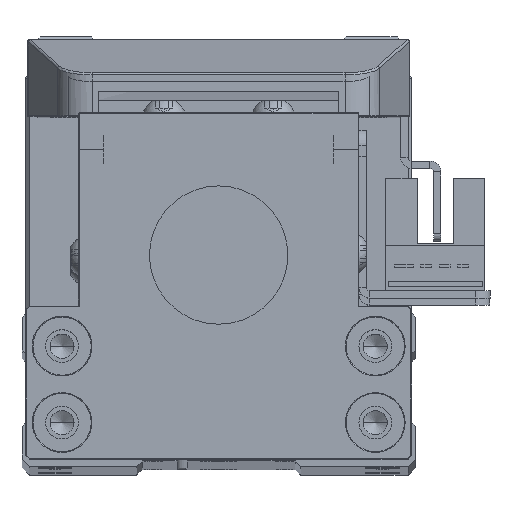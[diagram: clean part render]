
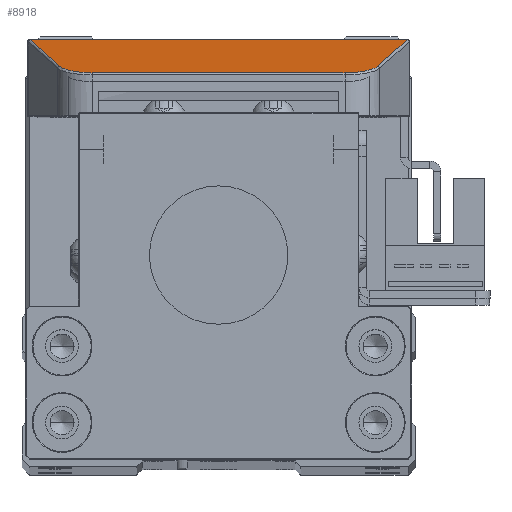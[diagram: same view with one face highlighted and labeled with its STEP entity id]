
A CAD part, top view. The second image highlights one B-rep face of the part: STEP entity #8918.
In plain terms, the highlighted planar face has unit normal (0, 0.962, 0.274) as drawn and (0, 0.274, 0.962) by its records, which use the part's own axes.
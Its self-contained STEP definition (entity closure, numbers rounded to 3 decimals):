
#27 = PLANE ( 'NONE',  #5730 ) ;
#504 = VECTOR ( 'NONE', #12778, 1000. ) ;
#949 = CARTESIAN_POINT ( 'NONE',  ( 25.876, 9.269, -0.077 ) ) ;
#1680 = CARTESIAN_POINT ( 'NONE',  ( 21.823, 22.007, -3.705 ) ) ;
#1836 = EDGE_CURVE ( 'NONE', #4837, #5199, #20678, .T. ) ;
#2120 = CARTESIAN_POINT ( 'NONE',  ( -25.876, 9.269, -0.077 ) ) ;
#2599 = VECTOR ( 'NONE', #31512, 1000. ) ;
#4036 = VERTEX_POINT ( 'NONE', #6713 ) ;
#4242 = CARTESIAN_POINT ( 'NONE',  ( -19.466, 25.282, -4.638 ) ) ;
#4585 = LINE ( 'NONE', #9087, #10500 ) ;
#4837 = VERTEX_POINT ( 'NONE', #8606 ) ;
#5199 = VERTEX_POINT ( 'NONE', #27852 ) ;
#5304 = VERTEX_POINT ( 'NONE', #5607 ) ;
#5536 = ORIENTED_EDGE ( 'NONE', *, *, #12785, .T. ) ;
#5607 = CARTESIAN_POINT ( 'NONE',  ( -17.344, 25.282, -4.638 ) ) ;
#5730 = AXIS2_PLACEMENT_3D ( 'NONE', #25357, #10179, #27924 ) ;
#6713 = CARTESIAN_POINT ( 'NONE',  ( 25.87, 9.287, -0.082 ) ) ;
#6797 = CARTESIAN_POINT ( 'NONE',  ( -21.179, 24.03, -4.281 ) ) ;
#6847 = ORIENTED_EDGE ( 'NONE', *, *, #1836, .T. ) ;
#7509 = ORIENTED_EDGE ( 'NONE', *, *, #27108, .T. ) ;
#7968 = EDGE_CURVE ( 'NONE', #5304, #4837, #24392, .T. ) ;
#7997 = CARTESIAN_POINT ( 'NONE',  ( 25.876, 9.269, -0.077 ) ) ;
#8198 = ORIENTED_EDGE ( 'NONE', *, *, #13929, .T. ) ;
#8563 = CARTESIAN_POINT ( 'NONE',  ( 25.872, 9.281, -0.08 ) ) ;
#8606 = CARTESIAN_POINT ( 'NONE',  ( -21.823, 22.007, -3.705 ) ) ;
#8767 = FACE_OUTER_BOUND ( 'NONE', #25503, .T. ) ;
#8918 = ADVANCED_FACE ( 'NONE', ( #8767 ), #27, .F. ) ;
#9087 = CARTESIAN_POINT ( 'NONE',  ( -17.344, 25.282, -4.638 ) ) ;
#9240 = CARTESIAN_POINT ( 'NONE',  ( -17.344, 25.282, -4.638 ) ) ;
#9296 = CARTESIAN_POINT ( 'NONE',  ( 19.466, 25.282, -4.638 ) ) ;
#9623 = CARTESIAN_POINT ( 'NONE',  ( -25.87, 9.287, -0.082 ) ) ;
#10179 = DIRECTION ( 'NONE',  ( 0., -0.274, -0.962 ) ) ;
#10500 = VECTOR ( 'NONE', #26781, 1000. ) ;
#11816 = VERTEX_POINT ( 'NONE', #27951 ) ;
#12778 = DIRECTION ( 'NONE',  ( -0.293, -0.92, 0.262 ) ) ;
#12785 = EDGE_CURVE ( 'NONE', #11816, #24530, #22783, .T. ) ;
#13813 = CARTESIAN_POINT ( 'NONE',  ( 26.25, 9.269, -0.077 ) ) ;
#13929 = EDGE_CURVE ( 'NONE', #24530, #4036, #28273, .T. ) ;
#15982 = CARTESIAN_POINT ( 'NONE',  ( 15.221, 42.754, -9.615 ) ) ;
#16263 = ORIENTED_EDGE ( 'NONE', *, *, #29335, .T. ) ;
#16705 = EDGE_CURVE ( 'NONE', #5199, #11816, #18764, .T. ) ;
#16801 = CARTESIAN_POINT ( 'NONE',  ( 21.179, 24.03, -4.281 ) ) ;
#17112 = VECTOR ( 'NONE', #31128, 1000. ) ;
#17206 = ORIENTED_EDGE ( 'NONE', *, *, #16705, .T. ) ;
#17236 = CARTESIAN_POINT ( 'NONE',  ( -25.874, 9.275, -0.078 ) ) ;
#18764 =( BOUNDED_CURVE ( )  B_SPLINE_CURVE ( 3, ( #9623, #27338, #17236, #2120 ),
 .UNSPECIFIED., .F., .F. ) 
 B_SPLINE_CURVE_WITH_KNOTS ( ( 4, 4 ),
 ( 1.263, 1.274 ),
 .UNSPECIFIED. ) 
 CURVE ( )  GEOMETRIC_REPRESENTATION_ITEM ( )  RATIONAL_B_SPLINE_CURVE ( ( 1., 1., 1., 1. ) ) 
 REPRESENTATION_ITEM ( '' )  );
#20309 = CARTESIAN_POINT ( 'NONE',  ( -22.655, 19.393, -2.96 ) ) ;
#20678 = LINE ( 'NONE', #20309, #504 ) ;
#21167 = CARTESIAN_POINT ( 'NONE',  ( 25.874, 9.275, -0.078 ) ) ;
#22783 = LINE ( 'NONE', #13813, #2599 ) ;
#24392 =( BOUNDED_CURVE ( )  B_SPLINE_CURVE ( 3, ( #9240, #4242, #6797, #24481 ),
 .UNSPECIFIED., .F., .F. ) 
 B_SPLINE_CURVE_WITH_KNOTS ( ( 4, 4 ),
 ( 0., 1.263 ),
 .UNSPECIFIED. ) 
 CURVE ( )  GEOMETRIC_REPRESENTATION_ITEM ( )  RATIONAL_B_SPLINE_CURVE ( ( 1., 0.871, 0.871, 1. ) ) 
 REPRESENTATION_ITEM ( '' )  );
#24481 = CARTESIAN_POINT ( 'NONE',  ( -21.823, 22.007, -3.705 ) ) ;
#24530 = VERTEX_POINT ( 'NONE', #7997 ) ;
#25215 = ORIENTED_EDGE ( 'NONE', *, *, #7968, .T. ) ;
#25279 = CARTESIAN_POINT ( 'NONE',  ( 21.823, 22.007, -3.705 ) ) ;
#25357 = CARTESIAN_POINT ( 'NONE',  ( -43.406, 25.5, -4.7 ) ) ;
#25503 = EDGE_LOOP ( 'NONE', ( #5536, #8198, #7509, #25874, #16263, #25215, #6847, #17206 ) ) ;
#25874 = ORIENTED_EDGE ( 'NONE', *, *, #29384, .T. ) ;
#26267 = CARTESIAN_POINT ( 'NONE',  ( 25.87, 9.287, -0.082 ) ) ;
#26418 = CARTESIAN_POINT ( 'NONE',  ( 17.344, 25.282, -4.638 ) ) ;
#26781 = DIRECTION ( 'NONE',  ( -1., 0., 0. ) ) ;
#27010 = CARTESIAN_POINT ( 'NONE',  ( 17.344, 25.282, -4.638 ) ) ;
#27108 = EDGE_CURVE ( 'NONE', #4036, #30231, #30591, .T. ) ;
#27338 = CARTESIAN_POINT ( 'NONE',  ( -25.872, 9.281, -0.08 ) ) ;
#27852 = CARTESIAN_POINT ( 'NONE',  ( -25.87, 9.287, -0.082 ) ) ;
#27924 = DIRECTION ( 'NONE',  ( 0., 0.962, -0.274 ) ) ;
#27951 = CARTESIAN_POINT ( 'NONE',  ( -25.876, 9.269, -0.077 ) ) ;
#28273 =( BOUNDED_CURVE ( )  B_SPLINE_CURVE ( 3, ( #949, #21167, #8563, #26267 ),
 .UNSPECIFIED., .F., .T. ) 
 B_SPLINE_CURVE_WITH_KNOTS ( ( 4, 4 ),
 ( 5.009, 5.02 ),
 .UNSPECIFIED. ) 
 CURVE ( )  GEOMETRIC_REPRESENTATION_ITEM ( )  RATIONAL_B_SPLINE_CURVE ( ( 1., 1., 1., 1. ) ) 
 REPRESENTATION_ITEM ( '' )  );
#28288 = VERTEX_POINT ( 'NONE', #26418 ) ;
#29335 = EDGE_CURVE ( 'NONE', #28288, #5304, #4585, .T. ) ;
#29384 = EDGE_CURVE ( 'NONE', #30231, #28288, #31145, .T. ) ;
#30231 = VERTEX_POINT ( 'NONE', #25279 ) ;
#30591 = LINE ( 'NONE', #15982, #17112 ) ;
#31128 = DIRECTION ( 'NONE',  ( -0.293, 0.92, -0.262 ) ) ;
#31145 =( BOUNDED_CURVE ( )  B_SPLINE_CURVE ( 3, ( #1680, #16801, #9296, #27010 ),
 .UNSPECIFIED., .F., .F. ) 
 B_SPLINE_CURVE_WITH_KNOTS ( ( 4, 4 ),
 ( 5.02, 6.283 ),
 .UNSPECIFIED. ) 
 CURVE ( )  GEOMETRIC_REPRESENTATION_ITEM ( )  RATIONAL_B_SPLINE_CURVE ( ( 1., 0.871, 0.871, 1. ) ) 
 REPRESENTATION_ITEM ( '' )  );
#31512 = DIRECTION ( 'NONE',  ( 1., 0., 0. ) ) ;
